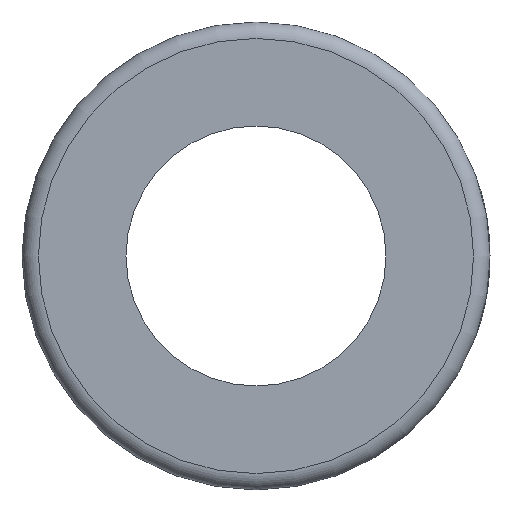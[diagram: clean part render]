
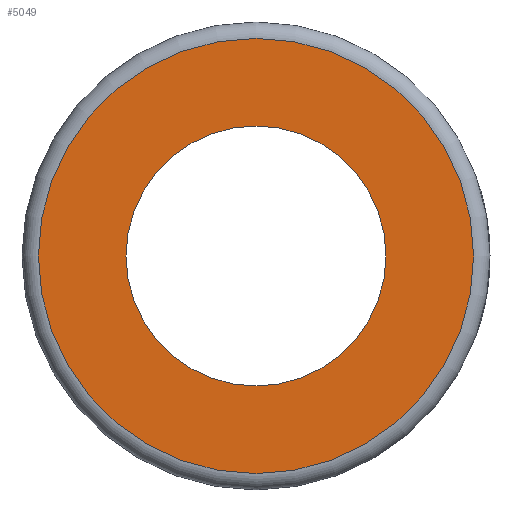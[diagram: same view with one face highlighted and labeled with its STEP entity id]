
A CAD part, left-side view. The second image highlights one B-rep face of the part: STEP entity #5049.
In plain terms, the highlighted planar face has unit normal (-1, 0, 0).
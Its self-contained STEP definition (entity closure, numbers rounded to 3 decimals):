
#119=PLANE('',#5445);
#1175=CIRCLE('',#5446,13.288);
#1176=CIRCLE('',#5447,7.938);
#1491=ORIENTED_EDGE('',*,*,#3009,.T.);
#1492=ORIENTED_EDGE('',*,*,#3010,.T.);
#3009=EDGE_CURVE('',#3768,#3768,#1175,.F.);
#3010=EDGE_CURVE('',#3769,#3769,#1176,.T.);
#3768=VERTEX_POINT('',#7919);
#3769=VERTEX_POINT('',#7921);
#4284=EDGE_LOOP('',(#1491));
#4285=EDGE_LOOP('',(#1492));
#4660=FACE_BOUND('',#4284,.T.);
#4661=FACE_BOUND('',#4285,.T.);
#5049=ADVANCED_FACE('',(#4660,#4661),#119,.F.);
#5445=AXIS2_PLACEMENT_3D('',#7917,#5971,#5972);
#5446=AXIS2_PLACEMENT_3D('',#7918,#5973,#5974);
#5447=AXIS2_PLACEMENT_3D('',#7920,#5975,#5976);
#5971=DIRECTION('',(1.,0.,0.));
#5972=DIRECTION('',(0.,0.,-1.));
#5973=DIRECTION('',(1.,0.,0.));
#5974=DIRECTION('',(0.,0.,-1.));
#5975=DIRECTION('',(1.,0.,0.));
#5976=DIRECTION('',(0.,0.,-1.));
#7917=CARTESIAN_POINT('',(-19.05,0.,0.));
#7918=CARTESIAN_POINT('',(-19.05,0.,0.));
#7919=CARTESIAN_POINT('',(-19.05,0.,-13.288));
#7920=CARTESIAN_POINT('',(-19.05,0.,0.));
#7921=CARTESIAN_POINT('',(-19.05,0.,-7.938));
